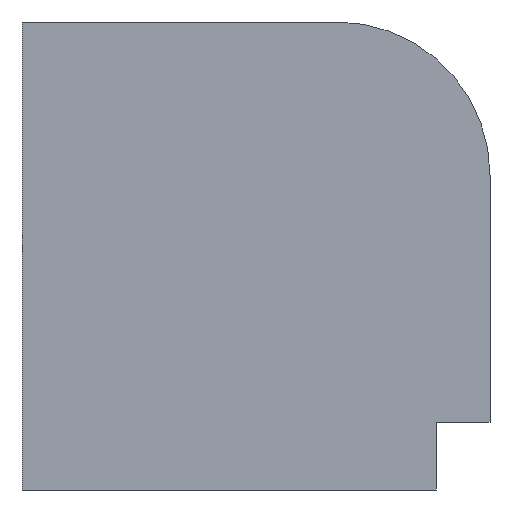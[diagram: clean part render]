
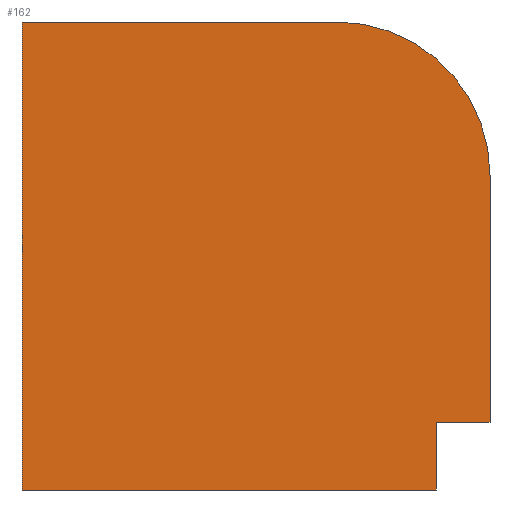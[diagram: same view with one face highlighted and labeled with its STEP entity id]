
A CAD part, left-side view. The second image highlights one B-rep face of the part: STEP entity #162.
In plain terms, the highlighted planar face has unit normal (-1, 0, 0).
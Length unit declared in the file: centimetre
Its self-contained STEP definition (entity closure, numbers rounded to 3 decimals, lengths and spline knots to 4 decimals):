
#2 = ORIENTED_EDGE ( 'NONE', *, *, #54, .T. ) ;
#7 = EDGE_CURVE ( 'NONE', #40, #105, #304, .T. ) ;
#21 = VECTOR ( 'NONE', #248, 100. ) ;
#28 = EDGE_CURVE ( 'NONE', #137, #105, #117, .T. ) ;
#32 = LINE ( 'NONE', #131, #81 ) ;
#40 = VERTEX_POINT ( 'NONE', #120 ) ;
#44 = EDGE_LOOP ( 'NONE', ( #294, #59, #82, #63, #2, #240, #157 ) ) ;
#47 = DIRECTION ( 'NONE',  ( 0., 1., 0. ) ) ;
#54 = EDGE_CURVE ( 'NONE', #125, #266, #133, .T. ) ;
#59 = ORIENTED_EDGE ( 'NONE', *, *, #7, .F. ) ;
#63 = ORIENTED_EDGE ( 'NONE', *, *, #324, .F. ) ;
#66 = CARTESIAN_POINT ( 'NONE',  ( 0., 327.5056, 1000. ) ) ;
#76 = CARTESIAN_POINT ( 'NONE',  ( 0., 1000., 1000. ) ) ;
#77 = AXIS2_PLACEMENT_3D ( 'NONE', #195, #276, #95 ) ;
#79 = CARTESIAN_POINT ( 'NONE',  ( 0., 1000., 1000. ) ) ;
#81 = VECTOR ( 'NONE', #236, 100. ) ;
#82 = ORIENTED_EDGE ( 'NONE', *, *, #217, .F. ) ;
#93 = CARTESIAN_POINT ( 'NONE',  ( 0., 1000., 0. ) ) ;
#94 = FACE_OUTER_BOUND ( 'NONE', #44, .T. ) ;
#95 = DIRECTION ( 'NONE',  ( 0., 0., -1. ) ) ;
#105 = VERTEX_POINT ( 'NONE', #182 ) ;
#108 = EDGE_CURVE ( 'NONE', #184, #137, #32, .T. ) ;
#117 = LINE ( 'NONE', #93, #21 ) ;
#120 = CARTESIAN_POINT ( 'NONE',  ( 0., 115.0764, 144.3344 ) ) ;
#122 = PLANE ( 'NONE',  #77 ) ;
#125 = VERTEX_POINT ( 'NONE', #311 ) ;
#129 = DIRECTION ( 'NONE',  ( 0., 0., -1. ) ) ;
#131 = CARTESIAN_POINT ( 'NONE',  ( 0., 1000., 1000. ) ) ;
#132 = EDGE_CURVE ( 'NONE', #184, #266, #145, .T. ) ;
#133 = CIRCLE ( 'NONE', #222, 327.5056 ) ;
#137 = VERTEX_POINT ( 'NONE', #329 ) ;
#141 = VERTEX_POINT ( 'NONE', #225 ) ;
#145 = LINE ( 'NONE', #76, #203 ) ;
#157 = ORIENTED_EDGE ( 'NONE', *, *, #108, .T. ) ;
#159 = LINE ( 'NONE', #216, #204 ) ;
#161 = DIRECTION ( 'NONE',  ( 0., 0., -1. ) ) ;
#162 = ADVANCED_FACE ( 'NONE', ( #94 ), #122, .F. ) ;
#182 = CARTESIAN_POINT ( 'NONE',  ( 0., 115.0764, 0. ) ) ;
#184 = VERTEX_POINT ( 'NONE', #79 ) ;
#195 = CARTESIAN_POINT ( 'NONE',  ( 0., 1000., 1000. ) ) ;
#203 = VECTOR ( 'NONE', #305, 100. ) ;
#204 = VECTOR ( 'NONE', #161, 100. ) ;
#205 = CARTESIAN_POINT ( 'NONE',  ( 0., 327.5056, 672.4944 ) ) ;
#216 = CARTESIAN_POINT ( 'NONE',  ( 0., 0., 1000. ) ) ;
#217 = EDGE_CURVE ( 'NONE', #141, #40, #326, .T. ) ;
#222 = AXIS2_PLACEMENT_3D ( 'NONE', #205, #235, #129 ) ;
#225 = CARTESIAN_POINT ( 'NONE',  ( 0., 0., 144.3344 ) ) ;
#235 = DIRECTION ( 'NONE',  ( -1., 0., 0. ) ) ;
#236 = DIRECTION ( 'NONE',  ( 0., 0., -1. ) ) ;
#237 = VECTOR ( 'NONE', #245, 100. ) ;
#240 = ORIENTED_EDGE ( 'NONE', *, *, #132, .F. ) ;
#245 = DIRECTION ( 'NONE',  ( 0., 0., -1. ) ) ;
#248 = DIRECTION ( 'NONE',  ( 0., -1., 0. ) ) ;
#254 = CARTESIAN_POINT ( 'NONE',  ( 0., 115.0764, 0. ) ) ;
#266 = VERTEX_POINT ( 'NONE', #66 ) ;
#275 = CARTESIAN_POINT ( 'NONE',  ( 0., 0., 144.3344 ) ) ;
#276 = DIRECTION ( 'NONE',  ( 1., 0., 0. ) ) ;
#291 = VECTOR ( 'NONE', #47, 100. ) ;
#294 = ORIENTED_EDGE ( 'NONE', *, *, #28, .T. ) ;
#304 = LINE ( 'NONE', #254, #237 ) ;
#305 = DIRECTION ( 'NONE',  ( 0., -1., 0. ) ) ;
#311 = CARTESIAN_POINT ( 'NONE',  ( 0., 0., 672.4944 ) ) ;
#324 = EDGE_CURVE ( 'NONE', #125, #141, #159, .T. ) ;
#326 = LINE ( 'NONE', #275, #291 ) ;
#329 = CARTESIAN_POINT ( 'NONE',  ( 0., 1000., 0. ) ) ;
